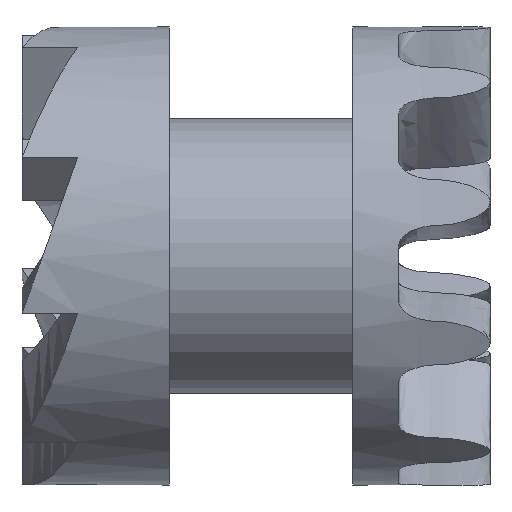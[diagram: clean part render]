
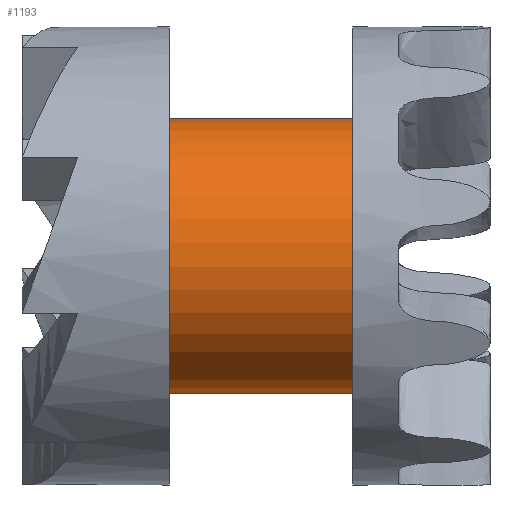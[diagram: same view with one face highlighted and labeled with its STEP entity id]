
A CAD part, left-side view. The second image highlights one B-rep face of the part: STEP entity #1193.
In plain terms, the highlighted cylindrical face has radius 4.35 mm (diameter 8.7 mm), a full revolution.
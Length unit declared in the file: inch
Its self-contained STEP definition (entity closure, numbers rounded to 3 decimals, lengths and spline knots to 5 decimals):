
#132=FACE_OUTER_BOUND('',#200,.T.);
#200=EDGE_LOOP('',(#746,#747,#748,#749,#750,#751));
#272=LINE('',#1598,#344);
#344=VECTOR('',#1366,0.17126);
#416=CIRCLE('',#1282,0.17126);
#417=CIRCLE('',#1283,0.17126);
#418=CIRCLE('',#1284,0.17126);
#419=CIRCLE('',#1285,0.17126);
#454=VERTEX_POINT('',#1594);
#455=VERTEX_POINT('',#1595);
#456=VERTEX_POINT('',#1597);
#457=VERTEX_POINT('',#1599);
#568=EDGE_CURVE('',#454,#455,#416,.T.);
#569=EDGE_CURVE('',#455,#456,#272,.T.);
#570=EDGE_CURVE('',#457,#456,#417,.T.);
#571=EDGE_CURVE('',#456,#457,#418,.T.);
#572=EDGE_CURVE('',#455,#454,#419,.T.);
#746=ORIENTED_EDGE('',*,*,#568,.T.);
#747=ORIENTED_EDGE('',*,*,#569,.T.);
#748=ORIENTED_EDGE('',*,*,#570,.F.);
#749=ORIENTED_EDGE('',*,*,#571,.F.);
#750=ORIENTED_EDGE('',*,*,#569,.F.);
#751=ORIENTED_EDGE('',*,*,#572,.T.);
#1102=CYLINDRICAL_SURFACE('',#1281,0.17126);
#1193=ADVANCED_FACE('',(#132),#1102,.T.);
#1281=AXIS2_PLACEMENT_3D('',#1593,#1362,#1363);
#1282=AXIS2_PLACEMENT_3D('',#1596,#1364,#1365);
#1283=AXIS2_PLACEMENT_3D('',#1600,#1367,#1368);
#1284=AXIS2_PLACEMENT_3D('',#1601,#1369,#1370);
#1285=AXIS2_PLACEMENT_3D('',#1602,#1371,#1372);
#1362=DIRECTION('center_axis',(0.,1.,0.));
#1363=DIRECTION('ref_axis',(0.997,0.,0.078));
#1364=DIRECTION('center_axis',(0.,-1.,0.));
#1365=DIRECTION('ref_axis',(-0.997,0.,-0.078));
#1366=DIRECTION('',(0.,-1.,0.));
#1367=DIRECTION('center_axis',(0.,-1.,0.));
#1368=DIRECTION('ref_axis',(-0.997,0.,-0.078));
#1369=DIRECTION('center_axis',(0.,-1.,0.));
#1370=DIRECTION('ref_axis',(-0.997,0.,-0.078));
#1371=DIRECTION('center_axis',(0.,-1.,0.));
#1372=DIRECTION('ref_axis',(-0.997,0.,-0.078));
#1593=CARTESIAN_POINT('Origin',(0.,2.98516,-0.09134));
#1594=CARTESIAN_POINT('',(0.17074,3.2135,-0.07797));
#1595=CARTESIAN_POINT('',(-0.17074,3.2135,-0.10471));
#1596=CARTESIAN_POINT('Origin',(0.,3.2135,-0.09134));
#1597=CARTESIAN_POINT('',(-0.17074,2.98516,-0.10471));
#1598=CARTESIAN_POINT('',(-0.17074,2.98516,-0.10471));
#1599=CARTESIAN_POINT('',(0.17074,2.98516,-0.07797));
#1600=CARTESIAN_POINT('Origin',(0.,2.98516,-0.09134));
#1601=CARTESIAN_POINT('Origin',(0.,2.98516,-0.09134));
#1602=CARTESIAN_POINT('Origin',(0.,3.2135,-0.09134));
